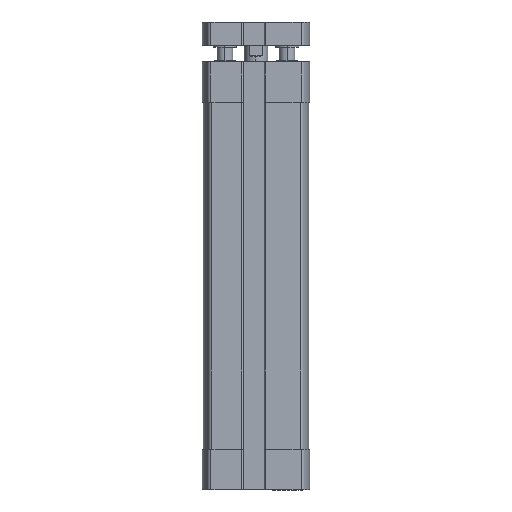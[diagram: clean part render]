
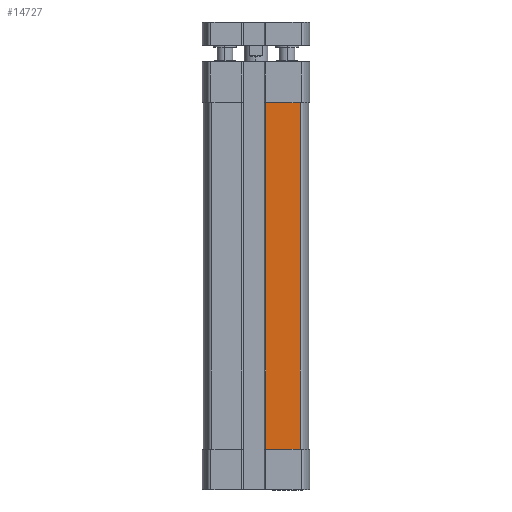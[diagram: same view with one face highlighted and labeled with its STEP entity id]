
A CAD part, front view. The second image highlights one B-rep face of the part: STEP entity #14727.
In plain terms, the highlighted planar face has unit normal (0, -1, 0) as drawn and (-1, 0, 0) by its records, which use the part's own axes.
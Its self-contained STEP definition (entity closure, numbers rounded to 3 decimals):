
#819 = CARTESIAN_POINT ( 'NONE',  ( -13.5, -2.5, -99.5 ) ) ;
#880 = EDGE_CURVE ( 'NONE', #6664, #16449, #16353, .T. ) ;
#1557 = VECTOR ( 'NONE', #10967, 1000. ) ;
#2302 = ORIENTED_EDGE ( 'NONE', *, *, #14357, .T. ) ;
#2622 = CARTESIAN_POINT ( 'NONE',  ( -13.5, 0., -10.5 ) ) ;
#3381 = CARTESIAN_POINT ( 'NONE',  ( -13.5, -11.329, -99.5 ) ) ;
#4350 = CARTESIAN_POINT ( 'NONE',  ( -13.5, -11.329, -10.5 ) ) ;
#5436 = DIRECTION ( 'NONE',  ( 0., -1., 0. ) ) ;
#5640 = VECTOR ( 'NONE', #9177, 1000. ) ;
#5754 = LINE ( 'NONE', #6911, #15455 ) ;
#6081 = DIRECTION ( 'NONE',  ( 0., 0., 1. ) ) ;
#6085 = ORIENTED_EDGE ( 'NONE', *, *, #16423, .T. ) ;
#6387 = VERTEX_POINT ( 'NONE', #11958 ) ;
#6584 = ORIENTED_EDGE ( 'NONE', *, *, #880, .T. ) ;
#6664 = VERTEX_POINT ( 'NONE', #3381 ) ;
#6824 = EDGE_LOOP ( 'NONE', ( #11513, #6584, #2302, #6085 ) ) ;
#6911 = CARTESIAN_POINT ( 'NONE',  ( -13.5, -2.5, -99.5 ) ) ;
#8746 = LINE ( 'NONE', #2622, #5640 ) ;
#9177 = DIRECTION ( 'NONE',  ( 0., 1., 0. ) ) ;
#9556 = LINE ( 'NONE', #12011, #12635 ) ;
#9657 = CARTESIAN_POINT ( 'NONE',  ( -13.5, -11.329, -99.5 ) ) ;
#10011 = PLANE ( 'NONE',  #12810 ) ;
#10967 = DIRECTION ( 'NONE',  ( 0., 0., 1. ) ) ;
#11513 = ORIENTED_EDGE ( 'NONE', *, *, #16909, .T. ) ;
#11958 = CARTESIAN_POINT ( 'NONE',  ( -13.5, -2.5, -10.5 ) ) ;
#12011 = CARTESIAN_POINT ( 'NONE',  ( -13.5, -2.5, -99.5 ) ) ;
#12635 = VECTOR ( 'NONE', #5436, 1000. ) ;
#12810 = AXIS2_PLACEMENT_3D ( 'NONE', #819, #13993, #6081 ) ;
#13993 = DIRECTION ( 'NONE',  ( -1., 0., 0. ) ) ;
#14357 = EDGE_CURVE ( 'NONE', #16449, #6387, #8746, .T. ) ;
#14727 = ADVANCED_FACE ( 'NONE', ( #16545 ), #10011, .T. ) ;
#14797 = DIRECTION ( 'NONE',  ( 0., 0., -1. ) ) ;
#14979 = VERTEX_POINT ( 'NONE', #15667 ) ;
#15455 = VECTOR ( 'NONE', #14797, 1000. ) ;
#15667 = CARTESIAN_POINT ( 'NONE',  ( -13.5, -2.5, -99.5 ) ) ;
#16353 = LINE ( 'NONE', #9657, #1557 ) ;
#16423 = EDGE_CURVE ( 'NONE', #6387, #14979, #5754, .T. ) ;
#16449 = VERTEX_POINT ( 'NONE', #4350 ) ;
#16545 = FACE_OUTER_BOUND ( 'NONE', #6824, .T. ) ;
#16909 = EDGE_CURVE ( 'NONE', #14979, #6664, #9556, .T. ) ;
